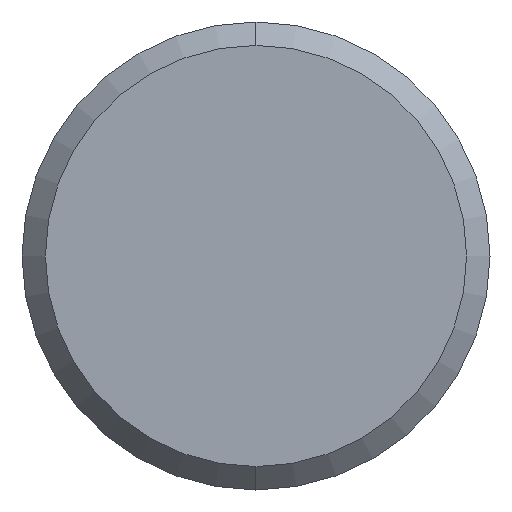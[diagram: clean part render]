
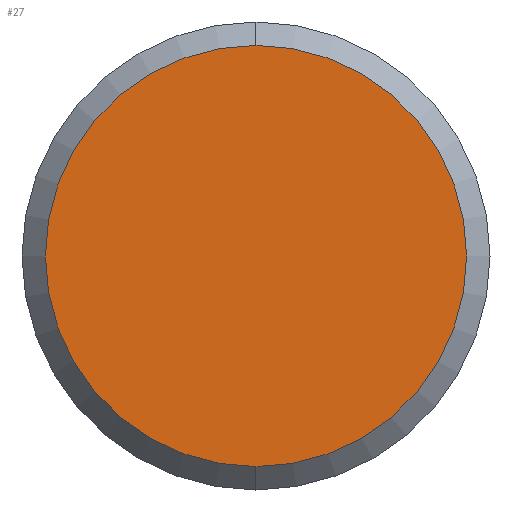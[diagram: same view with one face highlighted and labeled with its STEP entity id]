
A CAD part, left-side view. The second image highlights one B-rep face of the part: STEP entity #27.
In plain terms, the highlighted planar face has unit normal (-1, 0, 0).
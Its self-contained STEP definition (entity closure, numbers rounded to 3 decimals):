
#2 = AXIS2_PLACEMENT_3D ( 'NONE', #3, #337, #6 ) ;
#3 = CARTESIAN_POINT ( 'NONE',  ( -142.6, 10., 0. ) ) ;
#6 = DIRECTION ( 'NONE',  ( 0., 0., -1. ) ) ;
#17 = DIRECTION ( 'NONE',  ( 0., 0., -1. ) ) ;
#27 = ADVANCED_FACE ( 'NONE', ( #325 ), #197, .F. ) ;
#44 = CARTESIAN_POINT ( 'NONE',  ( -142.6, 0., 0. ) ) ;
#54 = VERTEX_POINT ( 'NONE', #174 ) ;
#55 = AXIS2_PLACEMENT_3D ( 'NONE', #44, #114, #17 ) ;
#88 = CARTESIAN_POINT ( 'NONE',  ( -142.6, 0., 0. ) ) ;
#90 = VERTEX_POINT ( 'NONE', #342 ) ;
#104 = EDGE_CURVE ( 'NONE', #90, #54, #250, .T. ) ;
#113 = ORIENTED_EDGE ( 'NONE', *, *, #247, .T. ) ;
#114 = DIRECTION ( 'NONE',  ( -1., 0., 0. ) ) ;
#115 = AXIS2_PLACEMENT_3D ( 'NONE', #88, #126, #268 ) ;
#126 = DIRECTION ( 'NONE',  ( -1., 0., 0. ) ) ;
#174 = CARTESIAN_POINT ( 'NONE',  ( -142.6, 0., -9. ) ) ;
#197 = PLANE ( 'NONE',  #2 ) ;
#206 = EDGE_LOOP ( 'NONE', ( #113, #304 ) ) ;
#247 = EDGE_CURVE ( 'NONE', #54, #90, #330, .T. ) ;
#250 = CIRCLE ( 'NONE', #55, 9. ) ;
#268 = DIRECTION ( 'NONE',  ( 0., 0., -1. ) ) ;
#304 = ORIENTED_EDGE ( 'NONE', *, *, #104, .T. ) ;
#325 = FACE_OUTER_BOUND ( 'NONE', #206, .T. ) ;
#330 = CIRCLE ( 'NONE', #115, 9. ) ;
#337 = DIRECTION ( 'NONE',  ( 1., 0., 0. ) ) ;
#342 = CARTESIAN_POINT ( 'NONE',  ( -142.6, 0., 9. ) ) ;
